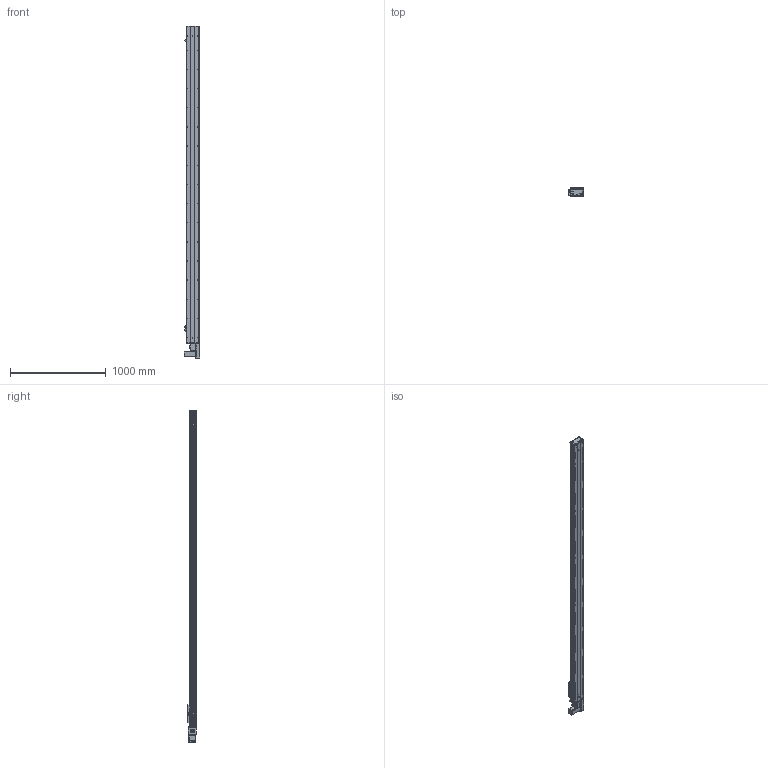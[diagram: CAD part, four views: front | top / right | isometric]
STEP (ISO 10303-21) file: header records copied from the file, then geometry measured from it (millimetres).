
FILE_DESCRIPTION (( 'STEP AP203' ), '1' );
FILE_NAME ('Y135CB-D90-S3000-BL-P400W.STEP', '2020-02-18T01:52:59', ( '微软用户' ), ( '微软中国' ), 'SwSTEP 2.0', 'SolidWorks 2017', '' );
FILE_SCHEMA (( 'CONFIG_CONTROL_DESIGN' ));
Length unit declared in the file: millimetre
Products named in the file (18): 5C--俋欶; Y俋欶BR----; 0B-源倛裔啣; C-雄赽釱--; 0B-萇儂楊擘啣; Y135CB-D90-S3000-BL-P400W; san松下电机400不带刹车----; 5CB --掛极耜裔啣-; Y135CB-耜裔; C-詩湍揤踡え-陔; 135CB---遴掛极.-; 135CB--詩湍-CE; 35CB---喘謫眊楊擘啣; Y100-135俋离換覜ん--; Y10B--々湍喘謫眊--666; Y135C-陔俋离換覜結え-; Y10B-耜蚾蟀諉啣----; 0B-埴倛裔啣
Assembly tree (21 placements, depth 2):
  Y135CB-D90-S3000-BL-P400W
    Y135CB-耜裔
    135CB---遴掛极.-
    35CB---喘謫眊楊擘啣
    Y10B--々湍喘謫眊--666
    Y10B-耜蚾蟀諉啣----
    Y俋欶BR----
    0B-埴倛裔啣
    0B-源倛裔啣
    0B-萇儂楊擘啣
    san松下电机400不带刹车----
    5CB --掛极耜裔啣-  x2
    C-詩湍揤踡え-陔  x2
    135CB--詩湍-CE
    Y100-135俋离換覜ん--  x3
    Y135C-陔俋离換覜結え-
    5C--俋欶
    C-雄赽釱--
Bounding box: 157.5 x 91 x 3464.5 mm (x, y, z)
Volume: 9581124.8 mm3; surface area: 3802370 mm2
Topology: 21 solids, 21 shells, 985 faces, 2707 edges, 1794 vertices
Faces by surface type: cylinder 511, plane 458, cone 16
Entity records: 31361 total; most frequent: CARTESIAN_POINT 5252, DIRECTION 5211, ORIENTED_EDGE 4890, EDGE_CURVE 2445, AXIS2_PLACEMENT_3D 1913, VERTEX_POINT 1622, LINE 1385, VECTOR 1385
